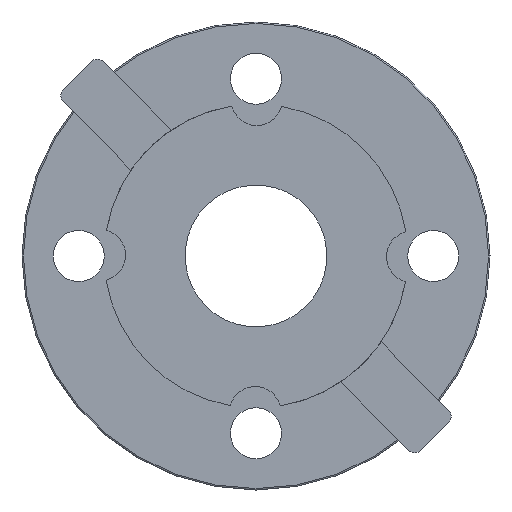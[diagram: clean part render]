
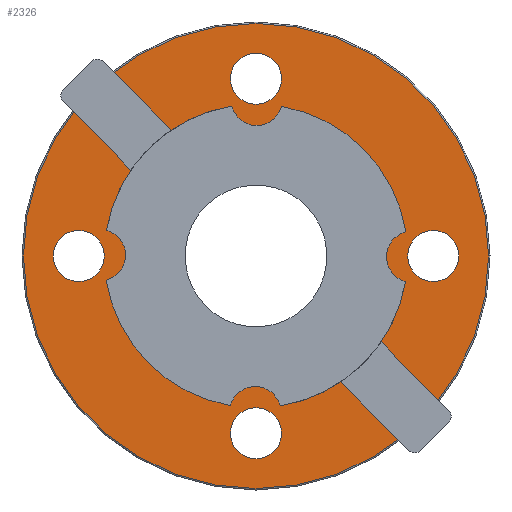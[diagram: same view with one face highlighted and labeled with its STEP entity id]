
A CAD part, front view. The second image highlights one B-rep face of the part: STEP entity #2326.
In plain terms, the highlighted planar face has unit normal (0, -1, 0).
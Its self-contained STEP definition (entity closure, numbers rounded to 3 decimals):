
#159 = CARTESIAN_POINT ( 'NONE',  ( 65.447, -25.999, -4.817 ) ) ;
#160 = DIRECTION ( 'NONE',  ( 0., -1., 0. ) ) ;
#161 = DIRECTION ( 'NONE',  ( -1., 0., 0. ) ) ;
#163 = CARTESIAN_POINT ( 'NONE',  ( 2.947, -25.999, -67.317 ) ) ;
#164 = DIRECTION ( 'NONE',  ( 0., -1., 0. ) ) ;
#165 = DIRECTION ( 'NONE',  ( -1., 0., 0. ) ) ;
#169 = CARTESIAN_POINT ( 'NONE',  ( 2.947, -25.999, 57.683 ) ) ;
#170 = DIRECTION ( 'NONE',  ( 0., -1., 0. ) ) ;
#171 = DIRECTION ( 'NONE',  ( -1., 0., 0. ) ) ;
#363 = EDGE_CURVE ( 'NONE', #1012, #2457, #734, .T. ) ;
#364 = EDGE_CURVE ( 'NONE', #2436, #2440, #737, .T. ) ;
#366 = EDGE_CURVE ( 'NONE', #1576, #697, #685, .T. ) ;
#473 = EDGE_CURVE ( 'NONE', #697, #1576, #557, .T. ) ;
#475 = EDGE_CURVE ( 'NONE', #2457, #1012, #559, .T. ) ;
#477 = EDGE_CURVE ( 'NONE', #2440, #2436, #564, .T. ) ;
#479 = EDGE_CURVE ( 'NONE', #2439, #717, #568, .T. ) ;
#482 = EDGE_CURVE ( 'NONE', #1011, #2401, #574, .T. ) ;
#483 = EDGE_CURVE ( 'NONE', #2438, #1008, #572, .T. ) ;
#557 = CIRCLE ( 'NONE', #558, 9. ) ;
#558 = AXIS2_PLACEMENT_3D ( 'NONE', #2147, #2148, #2149 ) ;
#559 = CIRCLE ( 'NONE', #563, 9. ) ;
#563 = AXIS2_PLACEMENT_3D ( 'NONE', #2153, #2154, #2155 ) ;
#564 = CIRCLE ( 'NONE', #567, 9. ) ;
#567 = AXIS2_PLACEMENT_3D ( 'NONE', #2159, #2160, #2161 ) ;
#568 = CIRCLE ( 'NONE', #571, 9. ) ;
#571 = AXIS2_PLACEMENT_3D ( 'NONE', #2165, #2166, #2167 ) ;
#572 = CIRCLE ( 'NONE', #580, 82. ) ;
#574 = CIRCLE ( 'NONE', #578, 45.719 ) ;
#578 = AXIS2_PLACEMENT_3D ( 'NONE', #2176, #2177, #2178 ) ;
#580 = AXIS2_PLACEMENT_3D ( 'NONE', #2179, #2180, #2181 ) ;
#651 = AXIS2_PLACEMENT_3D ( 'NONE', #1727, #1731, #1732 ) ;
#684 = AXIS2_PLACEMENT_3D ( 'NONE', #169, #170, #171 ) ;
#685 = CIRCLE ( 'NONE', #684, 9. ) ;
#696 = AXIS2_PLACEMENT_3D ( 'NONE', #163, #164, #165 ) ;
#697 = VERTEX_POINT ( 'NONE', #1143 ) ;
#717 = VERTEX_POINT ( 'NONE', #1173 ) ;
#729 = AXIS2_PLACEMENT_3D ( 'NONE', #159, #160, #161 ) ;
#734 = CIRCLE ( 'NONE', #729, 9. ) ;
#737 = CIRCLE ( 'NONE', #696, 9. ) ;
#884 = ORIENTED_EDGE ( 'NONE', *, *, #2264, .T. ) ;
#885 = ORIENTED_EDGE ( 'NONE', *, *, #482, .T. ) ;
#886 = ORIENTED_EDGE ( 'NONE', *, *, #483, .T. ) ;
#887 = ORIENTED_EDGE ( 'NONE', *, *, #2261, .T. ) ;
#888 = ORIENTED_EDGE ( 'NONE', *, *, #475, .F. ) ;
#889 = ORIENTED_EDGE ( 'NONE', *, *, #363, .F. ) ;
#890 = ORIENTED_EDGE ( 'NONE', *, *, #479, .F. ) ;
#891 = ORIENTED_EDGE ( 'NONE', *, *, #2301, .F. ) ;
#892 = ORIENTED_EDGE ( 'NONE', *, *, #477, .F. ) ;
#893 = ORIENTED_EDGE ( 'NONE', *, *, #364, .F. ) ;
#894 = ORIENTED_EDGE ( 'NONE', *, *, #473, .F. ) ;
#919 = EDGE_LOOP ( 'NONE', ( #894, #1888 ) ) ;
#921 = EDGE_LOOP ( 'NONE', ( #890, #891 ) ) ;
#922 = EDGE_LOOP ( 'NONE', ( #892, #893 ) ) ;
#923 = EDGE_LOOP ( 'NONE', ( #886, #887 ) ) ;
#924 = EDGE_LOOP ( 'NONE', ( #884, #885 ) ) ;
#931 = EDGE_LOOP ( 'NONE', ( #888, #889 ) ) ;
#958 = CIRCLE ( 'NONE', #962, 9. ) ;
#962 = AXIS2_PLACEMENT_3D ( 'NONE', #1633, #1634, #1635 ) ;
#1008 = VERTEX_POINT ( 'NONE', #1195 ) ;
#1011 = VERTEX_POINT ( 'NONE', #1198 ) ;
#1012 = VERTEX_POINT ( 'NONE', #1199 ) ;
#1143 = CARTESIAN_POINT ( 'NONE',  ( 11.947, -25.999, 57.683 ) ) ;
#1173 = CARTESIAN_POINT ( 'NONE',  ( -68.553, -25.999, -4.817 ) ) ;
#1195 = CARTESIAN_POINT ( 'NONE',  ( 84.947, -25.999, -4.817 ) ) ;
#1198 = CARTESIAN_POINT ( 'NONE',  ( -42.772, -25.999, -4.817 ) ) ;
#1199 = CARTESIAN_POINT ( 'NONE',  ( 56.447, -25.999, -4.817 ) ) ;
#1212 = CARTESIAN_POINT ( 'NONE',  ( -6.053, -25.999, 57.683 ) ) ;
#1237 = CARTESIAN_POINT ( 'NONE',  ( 2.947, -25.999, -4.817 ) ) ;
#1238 = DIRECTION ( 'NONE',  ( 0., -1., 0. ) ) ;
#1239 = DIRECTION ( 'NONE',  ( -1., 0., 0. ) ) ;
#1246 = CARTESIAN_POINT ( 'NONE',  ( 2.947, -25.999, -4.817 ) ) ;
#1247 = DIRECTION ( 'NONE',  ( 0., 1., 0. ) ) ;
#1248 = DIRECTION ( 'NONE',  ( -1., 0., 0. ) ) ;
#1452 = CARTESIAN_POINT ( 'NONE',  ( 48.666, -25.999, -4.817 ) ) ;
#1485 = CARTESIAN_POINT ( 'NONE',  ( -6.053, -25.999, -67.317 ) ) ;
#1487 = CARTESIAN_POINT ( 'NONE',  ( -79.053, -25.999, -4.817 ) ) ;
#1488 = CARTESIAN_POINT ( 'NONE',  ( -50.553, -25.999, -4.817 ) ) ;
#1489 = CARTESIAN_POINT ( 'NONE',  ( 11.947, -25.999, -67.317 ) ) ;
#1506 = CARTESIAN_POINT ( 'NONE',  ( 74.447, -25.999, -4.817 ) ) ;
#1576 = VERTEX_POINT ( 'NONE', #1212 ) ;
#1633 = CARTESIAN_POINT ( 'NONE',  ( -59.553, -25.999, -4.817 ) ) ;
#1634 = DIRECTION ( 'NONE',  ( 0., -1., 0. ) ) ;
#1635 = DIRECTION ( 'NONE',  ( -1., 0., 0. ) ) ;
#1721 = FACE_BOUND ( 'NONE', #922, .T. ) ;
#1722 = FACE_BOUND ( 'NONE', #924, .T. ) ;
#1723 = FACE_BOUND ( 'NONE', #919, .T. ) ;
#1724 = FACE_OUTER_BOUND ( 'NONE', #923, .T. ) ;
#1726 = FACE_BOUND ( 'NONE', #931, .T. ) ;
#1727 = CARTESIAN_POINT ( 'NONE',  ( -79.553, -25.999, -104.817 ) ) ;
#1728 = FACE_BOUND ( 'NONE', #921, .T. ) ;
#1730 = PLANE ( 'NONE',  #651 ) ;
#1731 = DIRECTION ( 'NONE',  ( 0., 1., 0. ) ) ;
#1732 = DIRECTION ( 'NONE',  ( -1., 0., 0. ) ) ;
#1846 = CIRCLE ( 'NONE', #1849, 82. ) ;
#1849 = AXIS2_PLACEMENT_3D ( 'NONE', #1237, #1238, #1239 ) ;
#1850 = CIRCLE ( 'NONE', #1854, 45.719 ) ;
#1854 = AXIS2_PLACEMENT_3D ( 'NONE', #1246, #1247, #1248 ) ;
#1888 = ORIENTED_EDGE ( 'NONE', *, *, #366, .F. ) ;
#2147 = CARTESIAN_POINT ( 'NONE',  ( 2.947, -25.999, 57.683 ) ) ;
#2148 = DIRECTION ( 'NONE',  ( 0., -1., 0. ) ) ;
#2149 = DIRECTION ( 'NONE',  ( -1., 0., 0. ) ) ;
#2153 = CARTESIAN_POINT ( 'NONE',  ( 65.447, -25.999, -4.817 ) ) ;
#2154 = DIRECTION ( 'NONE',  ( 0., -1., 0. ) ) ;
#2155 = DIRECTION ( 'NONE',  ( -1., 0., 0. ) ) ;
#2159 = CARTESIAN_POINT ( 'NONE',  ( 2.947, -25.999, -67.317 ) ) ;
#2160 = DIRECTION ( 'NONE',  ( 0., -1., 0. ) ) ;
#2161 = DIRECTION ( 'NONE',  ( -1., 0., 0. ) ) ;
#2165 = CARTESIAN_POINT ( 'NONE',  ( -59.553, -25.999, -4.817 ) ) ;
#2166 = DIRECTION ( 'NONE',  ( 0., -1., 0. ) ) ;
#2167 = DIRECTION ( 'NONE',  ( -1., 0., 0. ) ) ;
#2176 = CARTESIAN_POINT ( 'NONE',  ( 2.947, -25.999, -4.817 ) ) ;
#2177 = DIRECTION ( 'NONE',  ( 0., 1., 0. ) ) ;
#2178 = DIRECTION ( 'NONE',  ( -1., 0., 0. ) ) ;
#2179 = CARTESIAN_POINT ( 'NONE',  ( 2.947, -25.999, -4.817 ) ) ;
#2180 = DIRECTION ( 'NONE',  ( 0., -1., 0. ) ) ;
#2181 = DIRECTION ( 'NONE',  ( -1., 0., 0. ) ) ;
#2261 = EDGE_CURVE ( 'NONE', #1008, #2438, #1846, .T. ) ;
#2264 = EDGE_CURVE ( 'NONE', #2401, #1011, #1850, .T. ) ;
#2301 = EDGE_CURVE ( 'NONE', #717, #2439, #958, .T. ) ;
#2326 = ADVANCED_FACE ( 'NONE', ( #1722, #1724, #1726, #1728, #1721, #1723 ), #1730, .F. ) ;
#2401 = VERTEX_POINT ( 'NONE', #1452 ) ;
#2436 = VERTEX_POINT ( 'NONE', #1485 ) ;
#2438 = VERTEX_POINT ( 'NONE', #1487 ) ;
#2439 = VERTEX_POINT ( 'NONE', #1488 ) ;
#2440 = VERTEX_POINT ( 'NONE', #1489 ) ;
#2457 = VERTEX_POINT ( 'NONE', #1506 ) ;
